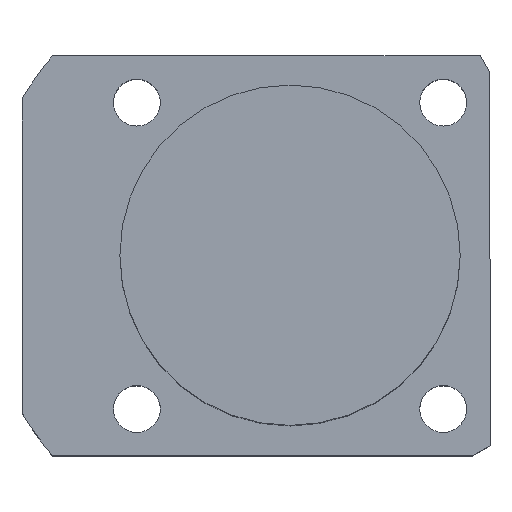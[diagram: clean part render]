
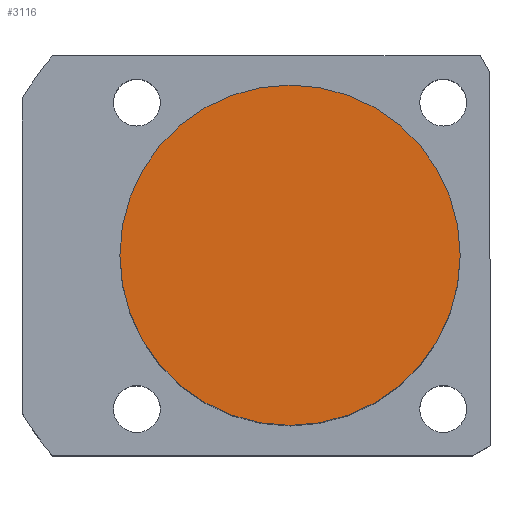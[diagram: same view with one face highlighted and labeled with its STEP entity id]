
A CAD part, top view. The second image highlights one B-rep face of the part: STEP entity #3116.
In plain terms, the highlighted planar face has unit normal (0, 0, 1).
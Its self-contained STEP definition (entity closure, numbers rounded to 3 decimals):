
#637 = CARTESIAN_POINT ( 'NONE',  ( -20., 0., 51.5 ) ) ;
#713 = DIRECTION ( 'NONE',  ( 1., 0., 0. ) ) ;
#991 = VERTEX_POINT ( 'NONE', #637 ) ;
#1166 = EDGE_CURVE ( 'NONE', #1863, #991, #2568, .T. ) ;
#1209 = ORIENTED_EDGE ( 'NONE', *, *, #1166, .T. ) ;
#1396 = EDGE_CURVE ( 'NONE', #991, #1863, #4553, .T. ) ;
#1615 = AXIS2_PLACEMENT_3D ( 'NONE', #4618, #2848, #713 ) ;
#1824 = EDGE_LOOP ( 'NONE', ( #2214, #1209 ) ) ;
#1863 = VERTEX_POINT ( 'NONE', #3578 ) ;
#1982 = DIRECTION ( 'NONE',  ( 0., 0., 1. ) ) ;
#2214 = ORIENTED_EDGE ( 'NONE', *, *, #1396, .T. ) ;
#2363 = CARTESIAN_POINT ( 'NONE',  ( 0., 0., 51.5 ) ) ;
#2381 = DIRECTION ( 'NONE',  ( 1., 0., 0. ) ) ;
#2568 = CIRCLE ( 'NONE', #4454, 20. ) ;
#2848 = DIRECTION ( 'NONE',  ( 0., 0., 1. ) ) ;
#2862 = PLANE ( 'NONE',  #1615 ) ;
#3116 = ADVANCED_FACE ( 'NONE', ( #4273 ), #2862, .T. ) ;
#3211 = AXIS2_PLACEMENT_3D ( 'NONE', #2363, #1982, #2381 ) ;
#3324 = CARTESIAN_POINT ( 'NONE',  ( 0., 0., 51.5 ) ) ;
#3406 = DIRECTION ( 'NONE',  ( 0., 0., 1. ) ) ;
#3578 = CARTESIAN_POINT ( 'NONE',  ( 20., 0., 51.5 ) ) ;
#3722 = DIRECTION ( 'NONE',  ( 1., 0., 0. ) ) ;
#4273 = FACE_OUTER_BOUND ( 'NONE', #1824, .T. ) ;
#4454 = AXIS2_PLACEMENT_3D ( 'NONE', #3324, #3406, #3722 ) ;
#4553 = CIRCLE ( 'NONE', #3211, 20. ) ;
#4618 = CARTESIAN_POINT ( 'NONE',  ( 0., 0., 51.5 ) ) ;
